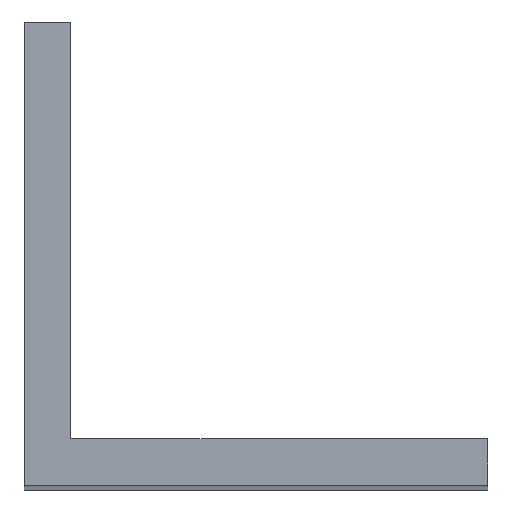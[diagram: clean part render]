
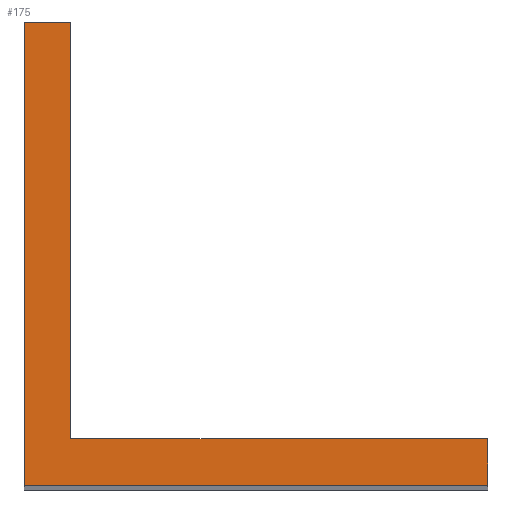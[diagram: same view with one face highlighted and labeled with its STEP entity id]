
A CAD part, top view. The second image highlights one B-rep face of the part: STEP entity #175.
In plain terms, the highlighted planar face has unit normal (0, 0, 1).
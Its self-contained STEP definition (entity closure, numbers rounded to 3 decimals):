
#1 = VECTOR ( 'NONE', #293, 1000. ) ;
#3 = CARTESIAN_POINT ( 'NONE',  ( -5., 45., 150. ) ) ;
#5 = DIRECTION ( 'NONE',  ( 0., -1., 0. ) ) ;
#8 = LINE ( 'NONE', #3, #27 ) ;
#14 = VECTOR ( 'NONE', #250, 1000. ) ;
#17 = VECTOR ( 'NONE', #234, 1000. ) ;
#20 = CARTESIAN_POINT ( 'NONE',  ( 45., -5., 150. ) ) ;
#23 = CARTESIAN_POINT ( 'NONE',  ( -5., -5., 150. ) ) ;
#24 = VECTOR ( 'NONE', #80, 1000. ) ;
#27 = VECTOR ( 'NONE', #5, 1000. ) ;
#28 = CARTESIAN_POINT ( 'NONE',  ( -5., 45., 150. ) ) ;
#38 = CARTESIAN_POINT ( 'NONE',  ( 0., 45., 150. ) ) ;
#41 = CARTESIAN_POINT ( 'NONE',  ( 45., 0., 150. ) ) ;
#43 = CARTESIAN_POINT ( 'NONE',  ( 0., 0., 150. ) ) ;
#51 = EDGE_LOOP ( 'NONE', ( #100, #83, #185, #53, #109, #94 ) ) ;
#53 = ORIENTED_EDGE ( 'NONE', *, *, #142, .T. ) ;
#64 = LINE ( 'NONE', #76, #24 ) ;
#76 = CARTESIAN_POINT ( 'NONE',  ( -5., -5., 150. ) ) ;
#79 = FACE_OUTER_BOUND ( 'NONE', #51, .T. ) ;
#80 = DIRECTION ( 'NONE',  ( 1., 0., 0. ) ) ;
#83 = ORIENTED_EDGE ( 'NONE', *, *, #148, .T. ) ;
#94 = ORIENTED_EDGE ( 'NONE', *, *, #188, .T. ) ;
#100 = ORIENTED_EDGE ( 'NONE', *, *, #160, .T. ) ;
#108 = VERTEX_POINT ( 'NONE', #43 ) ;
#109 = ORIENTED_EDGE ( 'NONE', *, *, #145, .T. ) ;
#110 = VERTEX_POINT ( 'NONE', #41 ) ;
#113 = VERTEX_POINT ( 'NONE', #38 ) ;
#125 = VERTEX_POINT ( 'NONE', #28 ) ;
#129 = AXIS2_PLACEMENT_3D ( 'NONE', #243, #242, #241 ) ;
#130 = VERTEX_POINT ( 'NONE', #23 ) ;
#137 = VERTEX_POINT ( 'NONE', #20 ) ;
#142 = EDGE_CURVE ( 'NONE', #125, #130, #8, .T. ) ;
#145 = EDGE_CURVE ( 'NONE', #130, #137, #64, .T. ) ;
#148 = EDGE_CURVE ( 'NONE', #108, #113, #201, .T. ) ;
#159 = EDGE_CURVE ( 'NONE', #113, #125, #295, .T. ) ;
#160 = EDGE_CURVE ( 'NONE', #110, #108, #291, .T. ) ;
#175 = ADVANCED_FACE ( 'NONE', ( #79 ), #244, .F. ) ;
#185 = ORIENTED_EDGE ( 'NONE', *, *, #159, .T. ) ;
#188 = EDGE_CURVE ( 'NONE', #137, #110, #236, .T. ) ;
#201 = LINE ( 'NONE', #217, #14 ) ;
#217 = CARTESIAN_POINT ( 'NONE',  ( 0., 0., 150. ) ) ;
#234 = DIRECTION ( 'NONE',  ( 0., 1., 0. ) ) ;
#235 = CARTESIAN_POINT ( 'NONE',  ( 45., -5., 150. ) ) ;
#236 = LINE ( 'NONE', #235, #17 ) ;
#241 = DIRECTION ( 'NONE',  ( -1., 0., 0. ) ) ;
#242 = DIRECTION ( 'NONE',  ( 0., 0., -1. ) ) ;
#243 = CARTESIAN_POINT ( 'NONE',  ( 0., 0., 150. ) ) ;
#244 = PLANE ( 'NONE',  #129 ) ;
#250 = DIRECTION ( 'NONE',  ( 0., 1., 0. ) ) ;
#256 = VECTOR ( 'NONE', #288, 1000. ) ;
#288 = DIRECTION ( 'NONE',  ( -1., 0., 0. ) ) ;
#289 = CARTESIAN_POINT ( 'NONE',  ( 45., 0., 150. ) ) ;
#291 = LINE ( 'NONE', #289, #256 ) ;
#293 = DIRECTION ( 'NONE',  ( -1., 0., 0. ) ) ;
#294 = CARTESIAN_POINT ( 'NONE',  ( 0., 45., 150. ) ) ;
#295 = LINE ( 'NONE', #294, #1 ) ;
